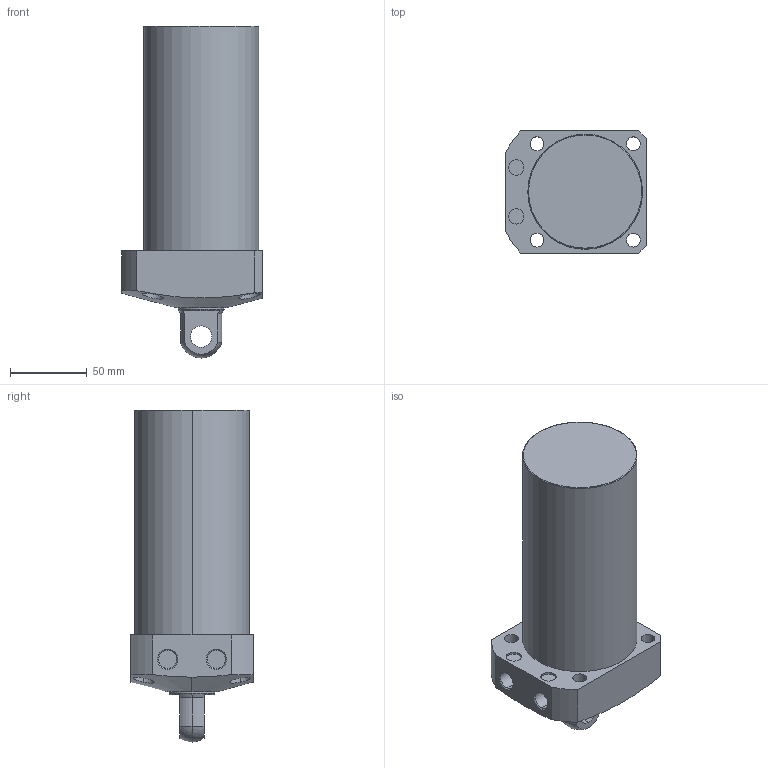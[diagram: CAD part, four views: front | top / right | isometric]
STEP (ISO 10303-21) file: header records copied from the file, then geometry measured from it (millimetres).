
FILE_DESCRIPTION (( 'STEP AP203' ), '1' );
FILE_NAME ('CLL-075CP-110.STEP', '2019-12-25T07:35:09', ( '' ), ( '' ), 'SwSTEP 2.0', 'SolidWorks 2015', '' );
FILE_SCHEMA (( 'CONFIG_CONTROL_DESIGN' ));
Length unit declared in the file: millimetre
Products named in the file (1): CLL-075CP-110
Bounding box: 92 x 80 x 217 mm (x, y, z)
Volume: 876868 mm3; surface area: 66539.7 mm2
Topology: 1 solids, 1 shells, 68 faces, 159 edges, 103 vertices
Faces by surface type: cylinder 35, plane 21, cone 8, sphere 2, torus 2
Entity records: 2459 total; most frequent: CARTESIAN_POINT 762, DIRECTION 357, ORIENTED_EDGE 318, EDGE_CURVE 159, AXIS2_PLACEMENT_3D 149, VERTEX_POINT 103, EDGE_LOOP 88, CIRCLE 80
